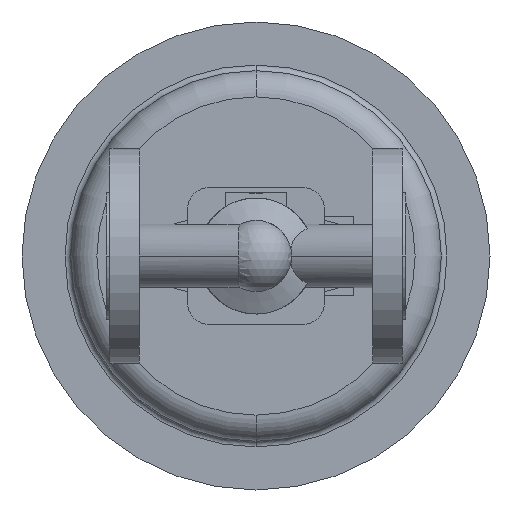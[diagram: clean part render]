
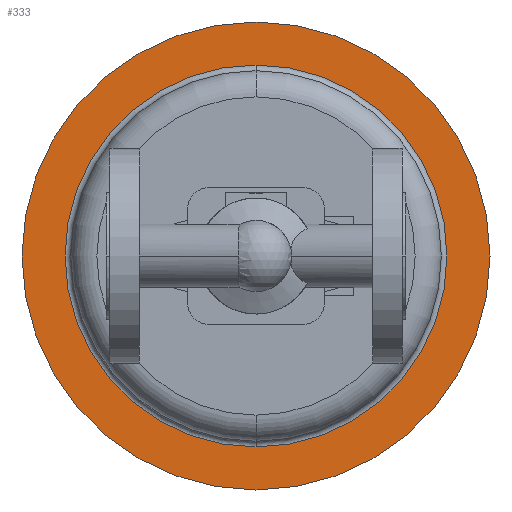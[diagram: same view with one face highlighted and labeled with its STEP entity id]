
A CAD part, front view. The second image highlights one B-rep face of the part: STEP entity #333.
In plain terms, the highlighted planar face has unit normal (0, -1, 0).
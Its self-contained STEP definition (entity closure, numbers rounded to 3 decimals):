
#333 = ADVANCED_FACE( '', ( #806, #807 ), #808, .T. );
#806 = FACE_OUTER_BOUND( '', #1288, .T. );
#807 = FACE_BOUND( '', #1289, .T. );
#808 = PLANE( '', #1290 );
#1288 = EDGE_LOOP( '', ( #2999, #3000 ) );
#1289 = EDGE_LOOP( '', ( #3001, #3002, #3003 ) );
#1290 = AXIS2_PLACEMENT_3D( '', #3004, #3005, #3006 );
#2999 = ORIENTED_EDGE( '', *, *, #3428, .F. );
#3000 = ORIENTED_EDGE( '', *, *, #3599, .F. );
#3001 = ORIENTED_EDGE( '', *, *, #3597, .T. );
#3002 = ORIENTED_EDGE( '', *, *, #3435, .T. );
#3003 = ORIENTED_EDGE( '', *, *, #3598, .T. );
#3004 = CARTESIAN_POINT( '', ( 193.5, 568., 0. ) );
#3005 = DIRECTION( '', ( 0., -1., 0. ) );
#3006 = DIRECTION( '', ( -1., 0., 0. ) );
#3428 = EDGE_CURVE( '', #4228, #4231, #4232, .T. );
#3435 = EDGE_CURVE( '', #4237, #4243, #4245, .T. );
#3597 = EDGE_CURVE( '', #4514, #4237, #4515, .T. );
#3598 = EDGE_CURVE( '', #4243, #4514, #4516, .T. );
#3599 = EDGE_CURVE( '', #4231, #4228, #4517, .T. );
#4228 = VERTEX_POINT( '', #5676 );
#4231 = VERTEX_POINT( '', #5680 );
#4232 = CIRCLE( '', #5681, 125. );
#4237 = VERTEX_POINT( '', #5687 );
#4243 = VERTEX_POINT( '', #5693 );
#4245 = CIRCLE( '', #5695, 102. );
#4514 = VERTEX_POINT( '', #6033 );
#4515 = CIRCLE( '', #6034, 102. );
#4516 = CIRCLE( '', #6035, 102. );
#4517 = CIRCLE( '', #6036, 125. );
#5676 = CARTESIAN_POINT( '', ( 205., 568., 0. ) );
#5680 = CARTESIAN_POINT( '', ( -45., 568., 0. ) );
#5681 = AXIS2_PLACEMENT_3D( '', #6738, #6739, #6740 );
#5687 = CARTESIAN_POINT( '', ( 80., 568., -102. ) );
#5693 = CARTESIAN_POINT( '', ( 80., 568., 102. ) );
#5695 = AXIS2_PLACEMENT_3D( '', #6757, #6758, #6759 );
#6033 = CARTESIAN_POINT( '', ( 182., 568., 0. ) );
#6034 = AXIS2_PLACEMENT_3D( '', #7105, #7106, #7107 );
#6035 = AXIS2_PLACEMENT_3D( '', #7108, #7109, #7110 );
#6036 = AXIS2_PLACEMENT_3D( '', #7111, #7112, #7113 );
#6738 = CARTESIAN_POINT( '', ( 80., 568., 0. ) );
#6739 = DIRECTION( '', ( 0., 1., 0. ) );
#6740 = DIRECTION( '', ( 1., 0., 0. ) );
#6757 = CARTESIAN_POINT( '', ( 80., 568., 0. ) );
#6758 = DIRECTION( '', ( 0., 1., 0. ) );
#6759 = DIRECTION( '', ( 1., 0., 0. ) );
#7105 = CARTESIAN_POINT( '', ( 80., 568., 0. ) );
#7106 = DIRECTION( '', ( 0., 1., 0. ) );
#7107 = DIRECTION( '', ( 1., 0., 0. ) );
#7108 = CARTESIAN_POINT( '', ( 80., 568., 0. ) );
#7109 = DIRECTION( '', ( 0., 1., 0. ) );
#7110 = DIRECTION( '', ( 1., 0., 0. ) );
#7111 = CARTESIAN_POINT( '', ( 80., 568., 0. ) );
#7112 = DIRECTION( '', ( 0., 1., 0. ) );
#7113 = DIRECTION( '', ( 1., 0., 0. ) );
